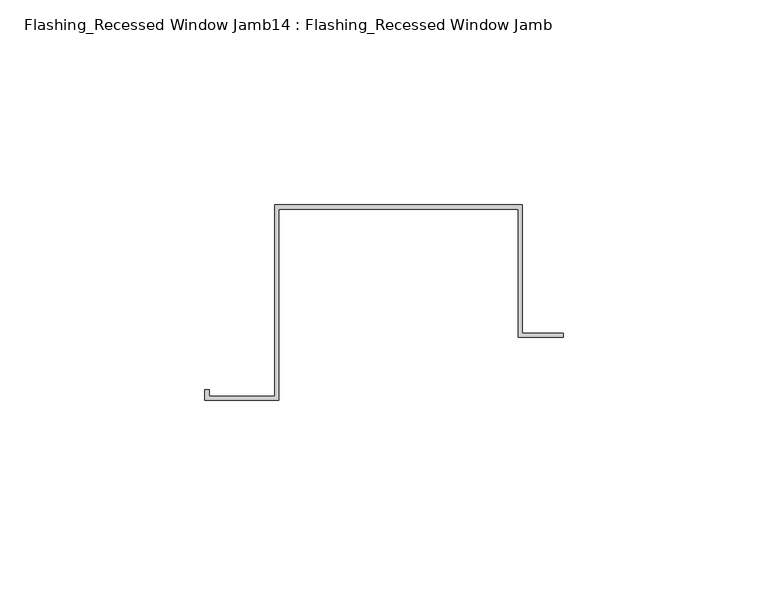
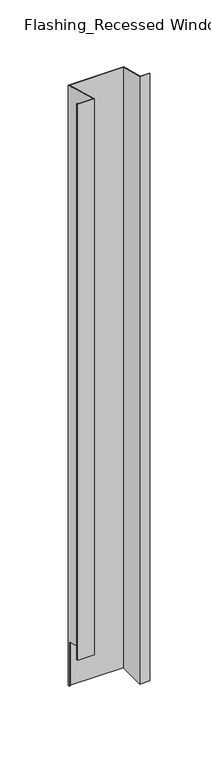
"""IFC4 building model written with IfcOpenShell, lengths in millimetres: proxy geometry, Flashing_Recessed Window Jamb14 : Flashing_Recessed Window Jamb."""

from ifc_helpers import new_model, si_unit, origin, place, context, project, spatial, faceted_brep, source, transform, mapped, element, save


def flashing_recessed_window_jamb14_flashing_recessed_window_10f6c336(model_context):
    return source(origin(), model_context, "Body", "Brep", [
        faceted_brep([(13197.8902201, -20641.9457855, -1036.7382524), (13197.8902201, -20610.6136752, -1036.7382524), (13139.5223206, -20610.6136752, -1036.7382524), (13139.5223206, -20611.5455269, -1036.7382524), (13138.5223206, -20611.5455269, -1036.7382524), (13138.5223206, -20609.6136752, -1036.7382524), (13198.8902201, -20609.6136752, -1036.7382524), (13198.8902201, -20640.9457855, -1036.7382524), (13208.8902201, -20640.9457855, -1036.7382524), (13208.8902201, -20641.9457855, -1036.7382524), (13198.8902201, -20609.6136752, -343.2151173), (13198.8902201, -20640.9457855, -334.8197037), (13138.5223206, -20609.6136752, -343.2151173), (13138.5223206, -20611.5455269, -985.662203), (13138.5223206, -20656.2991572, -973.6705039), (13138.5223206, -20656.2991572, -330.7057801), (13122.4910706, -20656.2991572, -330.7057801), (13122.4910706, -20656.2991572, -973.6705039), (13122.4910706, -20654.7546787, -331.1196219), (13122.4910706, -20654.7546787, -974.0843457), (13121.4910706, -20654.7546787, -331.1196219), (13121.4910706, -20654.7546787, -974.0843457), (13121.4910706, -20657.2991572, -330.4378309), (13121.4910706, -20657.2991572, -973.4025548), (13139.5223206, -20657.2991572, -330.4378309), (13139.5223206, -20657.2991572, -973.4025548), (13139.5223206, -20610.6136752, -342.9471681), (13139.5223206, -20611.5455269, -985.662203), (13197.8902201, -20610.6136752, -342.9471681), (13197.8902201, -20641.9457855, -334.5517545), (13208.8902201, -20641.9457855, -334.5517545), (13208.8902201, -20640.9457855, -334.8197037)], [[[0, 1, 2, 3, 4, 5, 6, 7, 8, 9]], [[7, 6, 10, 11]], [[6, 5, 12, 10]], [[12, 5, 4, 13, 14, 15]], [[16, 15, 14, 17]], [[18, 16, 17, 19]], [[20, 18, 19, 21]], [[22, 20, 21, 23]], [[24, 22, 23, 25]], [[2, 26, 24, 25, 27, 3]], [[2, 1, 28, 26]], [[1, 0, 29, 28]], [[0, 9, 30, 29]], [[9, 8, 31, 30]], [[8, 7, 11, 31]], [[11, 10, 12, 15, 16, 18, 20, 22, 24, 26, 28, 29, 30, 31]], [[13, 27, 25, 23, 21, 19, 17, 14]], [[27, 13, 4, 3]]]),
    ])


if __name__ == "__main__":
    model = new_model("IFC4")
    model_context = context("Model", 3, world=origin())
    ifc_project = project(units=[si_unit("LENGTHUNIT", "METRE", prefix="MILLI")], contexts=[model_context])
    site = spatial("IfcSite", under=ifc_project)
    building = spatial("IfcBuilding", under=site)
    placement = place(None, origin())
    flashing_recessed_window_jamb14_flashing_recessed_window_shape = flashing_recessed_window_jamb14_flashing_recessed_window_10f6c336(model_context)
    element("IfcBuildingElementProxy", 1, Name="Flashing_Recessed Window Jamb14 : Flashing_Recessed Window Jamb", ObjectType="Flashing_Recessed Window Jamb14 : Flashing_Recessed Window Jamb", at=placement, inside=building, context=model_context, shape_type="MappedRepresentation", body=[
        mapped(flashing_recessed_window_jamb14_flashing_recessed_window_shape, transform((0.0, 0.0, 0.0), x_axis=(1.0, 0.0, 0.0), y_axis=(0.0, 1.0, 0.0), z_axis=(0.0, 0.0, 1.0))),
    ])
    save(model, "model.ifc")
